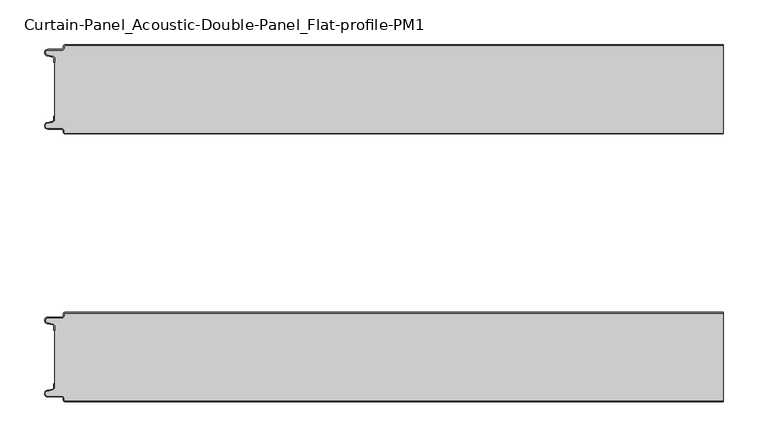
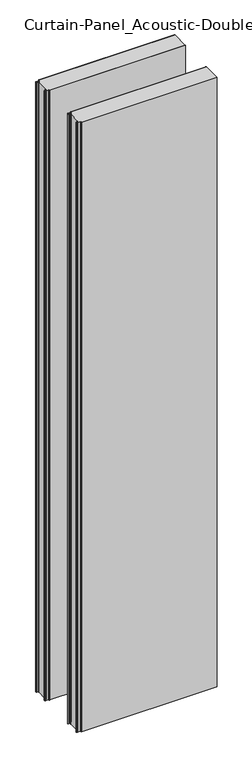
"""IFC4 building model written with IfcOpenShell, lengths in millimetres: plate geometry, Curtain-Panel_Acoustic-Double-Panel_Flat-profile-PM1 : ACH_Acoustic-Double-Panel_PM1_100-200-100."""

from ifc_helpers import new_model, si_unit, point, frame_2d, origin, origin_with_axes, place, context, project, spatial, polyline, circle_curve, trimmed, segment, composite_curve, outline, extrude, source, transform, mapped, element, save


def curtain_panel_acoustic_double_panel_flat_profile_pm1_77b9866a(model_context):
    return source(origin(), model_context, "Body", "SweptSolid", [
        extrude(outline(composite_curve([segment(trimmed(circle_curve(frame_2d((-362.4, -302.0)), 1.2), [point((-362.4, -300.8))], [point((-363.6, -302.0))], True, "CARTESIAN"), True, "CONTINUOUS"), segment(polyline([(-363.6, -302.0), (-363.6, -303.4)]), True, "CONTINUOUS"), segment(trimmed(circle_curve(frame_2d((-366.4, -303.4)), 2.8), [point((-363.6, -303.4))], [point((-366.4, -306.2))], False, "CARTESIAN"), True, "CONTINUOUS"), segment(polyline([(-366.4, -306.2), (-381.9, -306.2)]), True, "CONTINUOUS"), segment(trimmed(circle_curve(frame_2d((-381.9, -309.0)), 2.8), [point((-381.9, -306.2))], [point((-382.529863, -311.7282362))], True, "CARTESIAN"), True, "CONTINUOUS"), segment(polyline([(-382.529863, -311.7282362), (-376.370137, -313.150321)]), True, "CONTINUOUS"), segment(trimmed(circle_curve(frame_2d((-377.0, -315.878557)), 2.8), [point((-376.370137, -313.150321))], [point((-374.2, -315.878557))], False, "CARTESIAN"), True, "CONTINUOUS"), segment(polyline([(-374.2, -315.878557), (-374.2, -320.0), (-375.0, -320.0), (-375.0, -315.878557)]), True, "CONTINUOUS"), segment(trimmed(circle_curve(frame_2d((-377.0, -315.878557)), 2.0), [point((-375.0, -315.878557))], [point((-376.5500978, -313.9298169))], True, "CARTESIAN"), True, "CONTINUOUS"), segment(polyline([(-376.5500978, -313.9298169), (-382.7098239, -312.507732)]), True, "CONTINUOUS"), segment(trimmed(circle_curve(frame_2d((-381.9, -309.0)), 3.6), [point((-382.7098239, -312.507732))], [point((-381.9, -305.4))], False, "CARTESIAN"), True, "CONTINUOUS"), segment(polyline([(-381.9, -305.4), (-366.4, -305.4)]), True, "CONTINUOUS"), segment(trimmed(circle_curve(frame_2d((-366.4, -303.4)), 2.0), [point((-366.4, -305.4))], [point((-364.4, -303.4))], True, "CARTESIAN"), True, "CONTINUOUS"), segment(polyline([(-364.4, -303.4), (-364.4, -302.0)]), True, "CONTINUOUS"), segment(trimmed(circle_curve(frame_2d((-362.4, -302.0)), 2.0), [point((-364.4, -302.0))], [point((-362.4, -300.0))], False, "CARTESIAN"), True, "CONTINUOUS"), segment(polyline([(-362.4, -300.0), (375.0, -300.0), (375.0, -300.8), (-362.4, -300.8)]), True, "CONTINUOUS")], self_intersect=False)), origin_with_axes(), (0.0, 0.0, 1.0), 3500.0),
        extrude(outline(composite_curve([segment(polyline([(-374.2, -384.1214426), (-374.2, -315.8785573)]), True, "CONTINUOUS"), segment(trimmed(circle_curve(frame_2d((-377.0, -315.8785573)), 2.8), [point((-374.2, -315.8785573))], [point((-376.370137, -313.1503212))], True, "CARTESIAN"), True, "CONTINUOUS"), segment(polyline([(-376.370137, -313.1503212), (-382.5298631, -311.7282362)]), True, "CONTINUOUS"), segment(trimmed(circle_curve(frame_2d((-381.9, -309.0)), 2.8), [point((-382.5298631, -311.7282362))], [point((-381.9, -306.2))], False, "CARTESIAN"), True, "CONTINUOUS"), segment(polyline([(-381.9, -306.2), (-366.4000001, -306.2)]), True, "CONTINUOUS"), segment(trimmed(circle_curve(frame_2d((-366.4000001, -303.4)), 2.8), [point((-366.4000001, -306.2))], [point((-363.6000001, -303.4))], True, "CARTESIAN"), True, "CONTINUOUS"), segment(polyline([(-363.6000001, -303.4), (-363.6000001, -302.0)]), True, "CONTINUOUS"), segment(trimmed(circle_curve(frame_2d((-362.4000001, -302.0)), 1.2), [point((-363.6000001, -302.0))], [point((-362.4000001, -300.8))], False, "CARTESIAN"), True, "CONTINUOUS"), segment(polyline([(-362.4000001, -300.8), (375.0, -300.8), (375.0, -399.2), (-362.4000001, -399.2)]), True, "CONTINUOUS"), segment(trimmed(circle_curve(frame_2d((-362.4000001, -398.0)), 1.2), [point((-362.4000001, -399.2))], [point((-363.6000001, -398.0))], False, "CARTESIAN"), True, "CONTINUOUS"), segment(polyline([(-363.6000001, -398.0), (-363.6000001, -396.6)]), True, "CONTINUOUS"), segment(trimmed(circle_curve(frame_2d((-366.4000001, -396.6)), 2.8), [point((-363.6000001, -396.6))], [point((-366.4000001, -393.8))], True, "CARTESIAN"), True, "CONTINUOUS"), segment(polyline([(-366.4000001, -393.8), (-381.9, -393.8)]), True, "CONTINUOUS"), segment(trimmed(circle_curve(frame_2d((-381.9, -391.0)), 2.8), [point((-381.9, -393.8))], [point((-382.5298631, -388.2717638))], False, "CARTESIAN"), True, "CONTINUOUS"), segment(polyline([(-382.5298631, -388.2717638), (-376.370137, -386.8496788)]), True, "CONTINUOUS"), segment(trimmed(circle_curve(frame_2d((-377.0, -384.1214426)), 2.8), [point((-376.370137, -386.8496788))], [point((-374.2, -384.1214426))], True, "CARTESIAN"), True, "CONTINUOUS")], self_intersect=False)), origin_with_axes(), (0.0, 0.0, 1.0), 3500.0),
        extrude(outline(composite_curve([segment(trimmed(circle_curve(frame_2d((-362.4, -398.0)), 2.0), [point((-362.4, -400.0))], [point((-364.4, -398.0))], False, "CARTESIAN"), True, "CONTINUOUS"), segment(polyline([(-364.4, -398.0), (-364.4, -396.6)]), True, "CONTINUOUS"), segment(trimmed(circle_curve(frame_2d((-366.4, -396.6)), 2.0), [point((-364.4, -396.6))], [point((-366.4, -394.6))], True, "CARTESIAN"), True, "CONTINUOUS"), segment(polyline([(-366.4, -394.6), (-381.9, -394.6)]), True, "CONTINUOUS"), segment(trimmed(circle_curve(frame_2d((-381.9, -391.0)), 3.6), [point((-381.9, -394.6))], [point((-382.7098239, -387.4922678))], False, "CARTESIAN"), True, "CONTINUOUS"), segment(polyline([(-382.7098239, -387.4922678), (-376.5500979, -386.070183)]), True, "CONTINUOUS"), segment(trimmed(circle_curve(frame_2d((-377.0, -384.121443)), 2.0), [point((-376.5500979, -386.070183))], [point((-375.0, -384.121443))], True, "CARTESIAN"), True, "CONTINUOUS"), segment(polyline([(-375.0, -384.121443), (-375.0, -380.0), (-374.2, -380.0), (-374.2, -384.121443)]), True, "CONTINUOUS"), segment(trimmed(circle_curve(frame_2d((-377.0, -384.121443)), 2.8), [point((-374.2, -384.121443))], [point((-376.370137, -386.8496792))], False, "CARTESIAN"), True, "CONTINUOUS"), segment(polyline([(-376.370137, -386.8496792), (-382.529863, -388.271764)]), True, "CONTINUOUS"), segment(trimmed(circle_curve(frame_2d((-381.9, -391.0)), 2.8), [point((-382.529863, -388.271764))], [point((-381.9, -393.8))], True, "CARTESIAN"), True, "CONTINUOUS"), segment(polyline([(-381.9, -393.8), (-366.4, -393.8)]), True, "CONTINUOUS"), segment(trimmed(circle_curve(frame_2d((-366.4, -396.6)), 2.8), [point((-366.4, -393.8))], [point((-363.6, -396.6))], False, "CARTESIAN"), True, "CONTINUOUS"), segment(polyline([(-363.6, -396.6), (-363.6, -398.0)]), True, "CONTINUOUS"), segment(trimmed(circle_curve(frame_2d((-362.4, -398.0)), 1.2), [point((-363.6, -398.0))], [point((-362.4, -399.2))], True, "CARTESIAN"), True, "CONTINUOUS"), segment(polyline([(-362.4, -399.2), (375.0, -399.2), (375.0, -400.0), (-362.4, -400.0)]), True, "CONTINUOUS")], self_intersect=False)), origin_with_axes(), (0.0, 0.0, 1.0), 3500.0),
        extrude(outline(composite_curve([segment(trimmed(circle_curve(frame_2d((-362.4, -2.0)), 1.2), [point((-362.4, -0.8))], [point((-363.6, -2.0))], True, "CARTESIAN"), True, "CONTINUOUS"), segment(polyline([(-363.6, -2.0), (-363.6, -3.4)]), True, "CONTINUOUS"), segment(trimmed(circle_curve(frame_2d((-366.4, -3.4)), 2.8), [point((-363.6, -3.4))], [point((-366.4, -6.2))], False, "CARTESIAN"), True, "CONTINUOUS"), segment(polyline([(-366.4, -6.2), (-381.9, -6.2)]), True, "CONTINUOUS"), segment(trimmed(circle_curve(frame_2d((-381.9, -9.0)), 2.8), [point((-381.9, -6.2))], [point((-382.529863, -11.7282362))], True, "CARTESIAN"), True, "CONTINUOUS"), segment(polyline([(-382.529863, -11.7282362), (-376.370137, -13.150321)]), True, "CONTINUOUS"), segment(trimmed(circle_curve(frame_2d((-377.0, -15.878557)), 2.8), [point((-376.370137, -13.150321))], [point((-374.2, -15.878557))], False, "CARTESIAN"), True, "CONTINUOUS"), segment(polyline([(-374.2, -15.878557), (-374.2, -20.0), (-375.0, -20.0), (-375.0, -15.878557)]), True, "CONTINUOUS"), segment(trimmed(circle_curve(frame_2d((-377.0, -15.878557)), 2.0), [point((-375.0, -15.878557))], [point((-376.5500978, -13.9298169))], True, "CARTESIAN"), True, "CONTINUOUS"), segment(polyline([(-376.5500978, -13.9298169), (-382.7098239, -12.507732)]), True, "CONTINUOUS"), segment(trimmed(circle_curve(frame_2d((-381.9, -9.0)), 3.6), [point((-382.7098239, -12.507732))], [point((-381.9, -5.4))], False, "CARTESIAN"), True, "CONTINUOUS"), segment(polyline([(-381.9, -5.4), (-366.4, -5.4)]), True, "CONTINUOUS"), segment(trimmed(circle_curve(frame_2d((-366.4, -3.4)), 2.0), [point((-366.4, -5.4))], [point((-364.4, -3.4))], True, "CARTESIAN"), True, "CONTINUOUS"), segment(polyline([(-364.4, -3.4), (-364.4, -2.0)]), True, "CONTINUOUS"), segment(trimmed(circle_curve(frame_2d((-362.4, -2.0)), 2.0), [point((-364.4, -2.0))], [point((-362.4, 0.0))], False, "CARTESIAN"), True, "CONTINUOUS"), segment(polyline([(-362.4, 0.0), (375.0, 0.0), (375.0, -0.8), (-362.4, -0.8)]), True, "CONTINUOUS")], self_intersect=False)), origin_with_axes(), (0.0, 0.0, 1.0), 3500.0),
        extrude(outline(composite_curve([segment(polyline([(-374.2, -84.1214426), (-374.2, -15.8785573)]), True, "CONTINUOUS"), segment(trimmed(circle_curve(frame_2d((-377.0, -15.8785573)), 2.8), [point((-374.2, -15.8785573))], [point((-376.370137, -13.1503212))], True, "CARTESIAN"), True, "CONTINUOUS"), segment(polyline([(-376.370137, -13.1503212), (-382.5298631, -11.7282362)]), True, "CONTINUOUS"), segment(trimmed(circle_curve(frame_2d((-381.9, -9.0)), 2.8), [point((-382.5298631, -11.7282362))], [point((-381.9, -6.2))], False, "CARTESIAN"), True, "CONTINUOUS"), segment(polyline([(-381.9, -6.2), (-366.4000001, -6.2)]), True, "CONTINUOUS"), segment(trimmed(circle_curve(frame_2d((-366.4000001, -3.4)), 2.8), [point((-366.4000001, -6.2))], [point((-363.6000001, -3.4))], True, "CARTESIAN"), True, "CONTINUOUS"), segment(polyline([(-363.6000001, -3.4), (-363.6000001, -2.0)]), True, "CONTINUOUS"), segment(trimmed(circle_curve(frame_2d((-362.4000001, -2.0)), 1.2), [point((-363.6000001, -2.0))], [point((-362.4000001, -0.8))], False, "CARTESIAN"), True, "CONTINUOUS"), segment(polyline([(-362.4000001, -0.8), (375.0, -0.8), (375.0, -99.2), (-362.4000001, -99.2)]), True, "CONTINUOUS"), segment(trimmed(circle_curve(frame_2d((-362.4000001, -98.0)), 1.2), [point((-362.4000001, -99.2))], [point((-363.6000001, -98.0))], False, "CARTESIAN"), True, "CONTINUOUS"), segment(polyline([(-363.6000001, -98.0), (-363.6000001, -96.6)]), True, "CONTINUOUS"), segment(trimmed(circle_curve(frame_2d((-366.4000001, -96.6)), 2.8), [point((-363.6000001, -96.6))], [point((-366.4000001, -93.8))], True, "CARTESIAN"), True, "CONTINUOUS"), segment(polyline([(-366.4000001, -93.8), (-381.9, -93.8)]), True, "CONTINUOUS"), segment(trimmed(circle_curve(frame_2d((-381.9, -91.0)), 2.8), [point((-381.9, -93.8))], [point((-382.5298631, -88.2717638))], False, "CARTESIAN"), True, "CONTINUOUS"), segment(polyline([(-382.5298631, -88.2717638), (-376.370137, -86.8496788)]), True, "CONTINUOUS"), segment(trimmed(circle_curve(frame_2d((-377.0, -84.1214426)), 2.8), [point((-376.370137, -86.8496788))], [point((-374.2, -84.1214426))], True, "CARTESIAN"), True, "CONTINUOUS")], self_intersect=False)), origin_with_axes(), (0.0, 0.0, 1.0), 3500.0),
        extrude(outline(composite_curve([segment(trimmed(circle_curve(frame_2d((-362.4, -98.0)), 2.0), [point((-362.4, -100.0))], [point((-364.4, -98.0))], False, "CARTESIAN"), True, "CONTINUOUS"), segment(polyline([(-364.4, -98.0), (-364.4, -96.6)]), True, "CONTINUOUS"), segment(trimmed(circle_curve(frame_2d((-366.4, -96.6)), 2.0), [point((-364.4, -96.6))], [point((-366.4, -94.6))], True, "CARTESIAN"), True, "CONTINUOUS"), segment(polyline([(-366.4, -94.6), (-381.9, -94.6)]), True, "CONTINUOUS"), segment(trimmed(circle_curve(frame_2d((-381.9, -91.0)), 3.6), [point((-381.9, -94.6))], [point((-382.7098239, -87.4922678))], False, "CARTESIAN"), True, "CONTINUOUS"), segment(polyline([(-382.7098239, -87.4922678), (-376.5500979, -86.070183)]), True, "CONTINUOUS"), segment(trimmed(circle_curve(frame_2d((-377.0, -84.121443)), 2.0), [point((-376.5500979, -86.070183))], [point((-375.0, -84.121443))], True, "CARTESIAN"), True, "CONTINUOUS"), segment(polyline([(-375.0, -84.121443), (-375.0, -80.0), (-374.2, -80.0), (-374.2, -84.121443)]), True, "CONTINUOUS"), segment(trimmed(circle_curve(frame_2d((-377.0, -84.121443)), 2.8), [point((-374.2, -84.121443))], [point((-376.370137, -86.8496792))], False, "CARTESIAN"), True, "CONTINUOUS"), segment(polyline([(-376.370137, -86.8496792), (-382.529863, -88.271764)]), True, "CONTINUOUS"), segment(trimmed(circle_curve(frame_2d((-381.9, -91.0)), 2.8), [point((-382.529863, -88.271764))], [point((-381.9, -93.8))], True, "CARTESIAN"), True, "CONTINUOUS"), segment(polyline([(-381.9, -93.8), (-366.4, -93.8)]), True, "CONTINUOUS"), segment(trimmed(circle_curve(frame_2d((-366.4, -96.6)), 2.8), [point((-366.4, -93.8))], [point((-363.6, -96.6))], False, "CARTESIAN"), True, "CONTINUOUS"), segment(polyline([(-363.6, -96.6), (-363.6, -98.0)]), True, "CONTINUOUS"), segment(trimmed(circle_curve(frame_2d((-362.4, -98.0)), 1.2), [point((-363.6, -98.0))], [point((-362.4, -99.2))], True, "CARTESIAN"), True, "CONTINUOUS"), segment(polyline([(-362.4, -99.2), (375.0, -99.2), (375.0, -100.0), (-362.4, -100.0)]), True, "CONTINUOUS")], self_intersect=False)), origin_with_axes(), (0.0, 0.0, 1.0), 3500.0),
    ])


if __name__ == "__main__":
    model = new_model("IFC4")
    model_context = context("Model", 3, world=origin())
    ifc_project = project(units=[si_unit("LENGTHUNIT", "METRE", prefix="MILLI")], contexts=[model_context])
    site = spatial("IfcSite", under=ifc_project)
    building = spatial("IfcBuilding", under=site)
    placement = place(None, origin())
    curtain_panel_acoustic_double_panel_flat_profile_pm1_shape = curtain_panel_acoustic_double_panel_flat_profile_pm1_77b9866a(model_context)
    element("IfcPlate", 1, ObjectType="Curtain-Panel_Acoustic-Double-Panel_Flat-profile-PM1 : ACH_Acoustic-Double-Panel_PM1_100-200-100", at=placement, inside=building, context=model_context, shape_type="MappedRepresentation", body=[
        mapped(curtain_panel_acoustic_double_panel_flat_profile_pm1_shape, transform((0.0, 0.0, 0.0), x_axis=(1.0, 0.0, 0.0), y_axis=(0.0, 1.0, 0.0), z_axis=(0.0, 0.0, 1.0))),
    ])
    save(model, "model.ifc")
